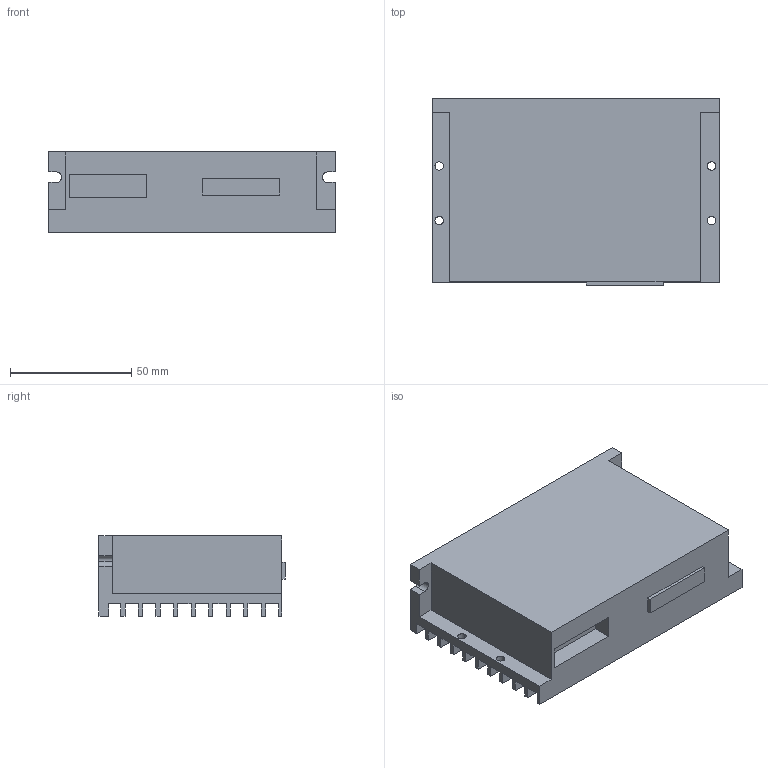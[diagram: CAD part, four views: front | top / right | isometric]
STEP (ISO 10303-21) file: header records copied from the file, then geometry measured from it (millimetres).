
FILE_DESCRIPTION((''),'2;1');
FILE_NAME('CU_SMD-7611_SMD-7612','2013-07-24T',('jbuhisan'),(''),'PRO/ENGINEER BY PARAMETRIC TECHNOLOGY CORPORATION, 2011490','PRO/ENGINEER BY PARAMETRIC TECHNOLOGY CORPORATION, 2011490','');
FILE_SCHEMA(('CONFIG_CONTROL_DESIGN'));
Length unit declared in the file: inch
Products named in the file (1): CU_SMD-7611_SMD-7612
Bounding box: 118.11 x 76.71 x 33.02 mm (x, y, z)
Surface area: 42667.4 mm2 (no closed solid volume)
Topology: 0 solids, 1 shells, 80 faces, 228 edges, 152 vertices
Faces by surface type: plane 68, cylinder 12
Entity records: 2632 total; most frequent: CARTESIAN_POINT 460, ORIENTED_EDGE 456, DIRECTION 412, EDGE_CURVE 228, VECTOR 204, LINE 204, VERTEX_POINT 152, AXIS2_PLACEMENT_3D 104
